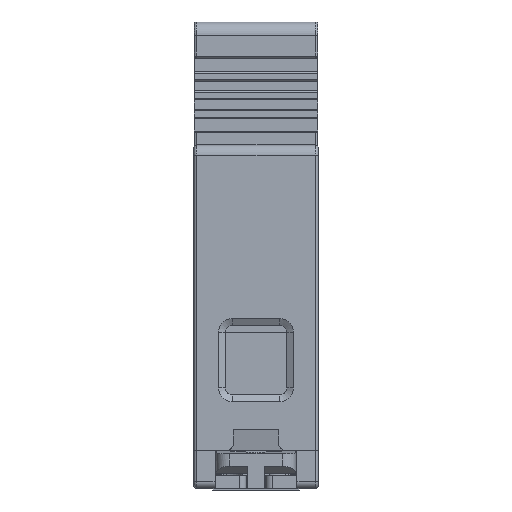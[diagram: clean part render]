
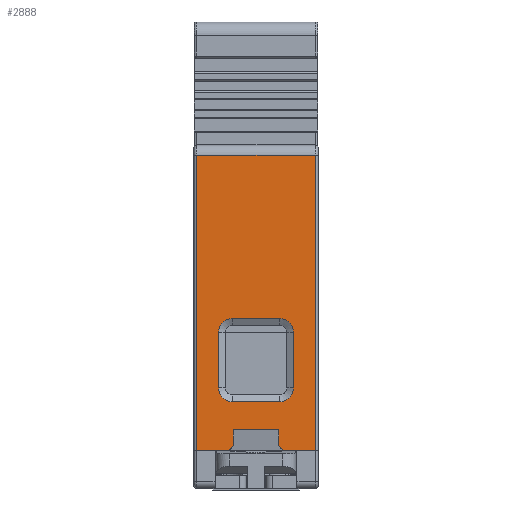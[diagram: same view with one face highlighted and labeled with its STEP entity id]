
A CAD part, left-side view. The second image highlights one B-rep face of the part: STEP entity #2888.
In plain terms, the highlighted planar face has unit normal (-1, 0, 0).
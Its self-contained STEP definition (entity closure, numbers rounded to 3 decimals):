
#1119=FACE_BOUND('',#7097,.T.);
#1566=CIRCLE('',#29980,1.);
#1567=CIRCLE('',#29981,1.);
#1568=CIRCLE('',#29982,2.);
#1569=CIRCLE('',#29983,2.);
#1570=CIRCLE('',#29984,2.);
#1571=CIRCLE('',#29985,2.);
#2888=ADVANCED_FACE('',(#5502,#1119),#4116,.T.);
#4116=PLANE('',#29986);
#5502=FACE_OUTER_BOUND('',#7096,.T.);
#7096=EDGE_LOOP('',(#13394,#13395,#13396,#13397,#13398,#13399,#13400,#13401,
#13402,#13403));
#7097=EDGE_LOOP('',(#13404,#13405,#13406,#13407,#13408,#13409,#13410,#13411));
#13394=ORIENTED_EDGE('',*,*,#21387,.T.);
#13395=ORIENTED_EDGE('',*,*,#21388,.T.);
#13396=ORIENTED_EDGE('',*,*,#21389,.T.);
#13397=ORIENTED_EDGE('',*,*,#21390,.T.);
#13398=ORIENTED_EDGE('',*,*,#21391,.T.);
#13399=ORIENTED_EDGE('',*,*,#21392,.T.);
#13400=ORIENTED_EDGE('',*,*,#21393,.T.);
#13401=ORIENTED_EDGE('',*,*,#21394,.T.);
#13402=ORIENTED_EDGE('',*,*,#21395,.F.);
#13403=ORIENTED_EDGE('',*,*,#21396,.T.);
#13404=ORIENTED_EDGE('',*,*,#21397,.T.);
#13405=ORIENTED_EDGE('',*,*,#21398,.T.);
#13406=ORIENTED_EDGE('',*,*,#21399,.T.);
#13407=ORIENTED_EDGE('',*,*,#21400,.T.);
#13408=ORIENTED_EDGE('',*,*,#21401,.T.);
#13409=ORIENTED_EDGE('',*,*,#21402,.T.);
#13410=ORIENTED_EDGE('',*,*,#21403,.T.);
#13411=ORIENTED_EDGE('',*,*,#21404,.T.);
#17691=VERTEX_POINT('',#47106);
#17692=VERTEX_POINT('',#47107);
#17693=VERTEX_POINT('',#47109);
#17694=VERTEX_POINT('',#47111);
#17695=VERTEX_POINT('',#47113);
#17696=VERTEX_POINT('',#47115);
#17697=VERTEX_POINT('',#47117);
#17698=VERTEX_POINT('',#47119);
#17699=VERTEX_POINT('',#47121);
#17700=VERTEX_POINT('',#47123);
#17701=VERTEX_POINT('',#47126);
#17702=VERTEX_POINT('',#47127);
#17703=VERTEX_POINT('',#47129);
#17704=VERTEX_POINT('',#47131);
#17705=VERTEX_POINT('',#47133);
#17706=VERTEX_POINT('',#47135);
#17707=VERTEX_POINT('',#47137);
#17708=VERTEX_POINT('',#47139);
#21387=EDGE_CURVE('',#17691,#17692,#24781,.T.);
#21388=EDGE_CURVE('',#17692,#17693,#1566,.T.);
#21389=EDGE_CURVE('',#17693,#17694,#24782,.T.);
#21390=EDGE_CURVE('',#17694,#17695,#24783,.T.);
#21391=EDGE_CURVE('',#17695,#17696,#24784,.T.);
#21392=EDGE_CURVE('',#17696,#17697,#24785,.T.);
#21393=EDGE_CURVE('',#17697,#17698,#24786,.T.);
#21394=EDGE_CURVE('',#17698,#17699,#1567,.T.);
#21395=EDGE_CURVE('',#17700,#17699,#24787,.T.);
#21396=EDGE_CURVE('',#17700,#17691,#24788,.T.);
#21397=EDGE_CURVE('',#17701,#17702,#24789,.T.);
#21398=EDGE_CURVE('',#17702,#17703,#1568,.T.);
#21399=EDGE_CURVE('',#17703,#17704,#24790,.T.);
#21400=EDGE_CURVE('',#17704,#17705,#1569,.T.);
#21401=EDGE_CURVE('',#17705,#17706,#24791,.T.);
#21402=EDGE_CURVE('',#17706,#17707,#1570,.T.);
#21403=EDGE_CURVE('',#17707,#17708,#24792,.T.);
#21404=EDGE_CURVE('',#17708,#17701,#1571,.T.);
#24781=LINE('',#47105,#27923);
#24782=LINE('',#47110,#27924);
#24783=LINE('',#47112,#27925);
#24784=LINE('',#47114,#27926);
#24785=LINE('',#47116,#27927);
#24786=LINE('',#47118,#27928);
#24787=LINE('',#47122,#27929);
#24788=LINE('',#47124,#27930);
#24789=LINE('',#47125,#27931);
#24790=LINE('',#47130,#27932);
#24791=LINE('',#47134,#27933);
#24792=LINE('',#47138,#27934);
#27923=VECTOR('',#35951,1.);
#27924=VECTOR('',#35954,1.);
#27925=VECTOR('',#35955,1.);
#27926=VECTOR('',#35956,1.);
#27927=VECTOR('',#35957,1.);
#27928=VECTOR('',#35958,1.);
#27929=VECTOR('',#35961,1.);
#27930=VECTOR('',#35962,1.);
#27931=VECTOR('',#35963,1.);
#27932=VECTOR('',#35966,1.);
#27933=VECTOR('',#35969,1.);
#27934=VECTOR('',#35972,1.);
#29980=AXIS2_PLACEMENT_3D('',#47108,#35952,#35953);
#29981=AXIS2_PLACEMENT_3D('',#47120,#35959,#35960);
#29982=AXIS2_PLACEMENT_3D('',#47128,#35964,#35965);
#29983=AXIS2_PLACEMENT_3D('',#47132,#35967,#35968);
#29984=AXIS2_PLACEMENT_3D('',#47136,#35970,#35971);
#29985=AXIS2_PLACEMENT_3D('',#47140,#35973,#35974);
#29986=AXIS2_PLACEMENT_3D('',#47141,#35975,#35976);
#35951=DIRECTION('',(0.,0.,-1.));
#35952=DIRECTION('',(-1.,0.,0.));
#35953=DIRECTION('',(0.,0.,1.));
#35954=DIRECTION('',(0.,-1.,0.));
#35955=DIRECTION('',(0.,0.,1.));
#35956=DIRECTION('',(0.,1.,0.));
#35957=DIRECTION('',(0.,0.,-1.));
#35958=DIRECTION('',(0.,-1.,0.));
#35959=DIRECTION('',(-1.,0.,0.));
#35960=DIRECTION('',(0.,0.,1.));
#35961=DIRECTION('',(0.,0.,-1.));
#35962=DIRECTION('',(0.,-1.,0.));
#35963=DIRECTION('',(0.,-1.,0.));
#35964=DIRECTION('',(1.,0.,0.));
#35965=DIRECTION('',(0.,0.,1.));
#35966=DIRECTION('',(0.,0.,-1.));
#35967=DIRECTION('',(1.,0.,0.));
#35968=DIRECTION('',(0.,0.,1.));
#35969=DIRECTION('',(0.,1.,0.));
#35970=DIRECTION('',(1.,0.,0.));
#35971=DIRECTION('',(0.,0.,1.));
#35972=DIRECTION('',(0.,0.,1.));
#35973=DIRECTION('',(1.,0.,0.));
#35974=DIRECTION('',(0.,0.,1.));
#35975=DIRECTION('',(-1.,0.,0.));
#35976=DIRECTION('',(0.,0.,1.));
#47105=CARTESIAN_POINT('',(-1.1,4.55,8.7));
#47106=CARTESIAN_POINT('',(-1.1,4.55,8.7));
#47107=CARTESIAN_POINT('',(-1.1,4.55,6.7));
#47108=CARTESIAN_POINT('',(-1.1,3.55,6.7));
#47109=CARTESIAN_POINT('',(-1.1,3.55,5.7));
#47110=CARTESIAN_POINT('',(-1.1,7.8,5.7));
#47111=CARTESIAN_POINT('',(-1.1,-0.75,5.7));
#47112=CARTESIAN_POINT('',(-1.1,-0.75,48.2));
#47113=CARTESIAN_POINT('',(-1.1,-0.75,48.2));
#47114=CARTESIAN_POINT('',(-1.1,7.8,48.2));
#47115=CARTESIAN_POINT('',(-1.1,16.35,48.2));
#47116=CARTESIAN_POINT('',(-1.1,16.35,26.75));
#47117=CARTESIAN_POINT('',(-1.1,16.35,5.7));
#47118=CARTESIAN_POINT('',(-1.1,7.8,5.7));
#47119=CARTESIAN_POINT('',(-1.1,12.05,5.7));
#47120=CARTESIAN_POINT('',(-1.1,12.05,6.7));
#47121=CARTESIAN_POINT('',(-1.1,11.05,6.7));
#47122=CARTESIAN_POINT('',(-1.1,11.05,8.7));
#47123=CARTESIAN_POINT('',(-1.1,11.05,8.7));
#47124=CARTESIAN_POINT('',(-1.1,11.05,8.7));
#47125=CARTESIAN_POINT('',(-1.1,4.4,24.7));
#47126=CARTESIAN_POINT('',(-1.1,11.2,24.7));
#47127=CARTESIAN_POINT('',(-1.1,4.4,24.7));
#47128=CARTESIAN_POINT('',(-1.1,4.4,22.7));
#47129=CARTESIAN_POINT('',(-1.1,2.4,22.7));
#47130=CARTESIAN_POINT('',(-1.1,2.4,14.7));
#47131=CARTESIAN_POINT('',(-1.1,2.4,14.7));
#47132=CARTESIAN_POINT('',(-1.1,4.4,14.7));
#47133=CARTESIAN_POINT('',(-1.1,4.4,12.7));
#47134=CARTESIAN_POINT('',(-1.1,11.2,12.7));
#47135=CARTESIAN_POINT('',(-1.1,11.2,12.7));
#47136=CARTESIAN_POINT('',(-1.1,11.2,14.7));
#47137=CARTESIAN_POINT('',(-1.1,13.2,14.7));
#47138=CARTESIAN_POINT('',(-1.1,13.2,22.7));
#47139=CARTESIAN_POINT('',(-1.1,13.2,22.7));
#47140=CARTESIAN_POINT('',(-1.1,11.2,22.7));
#47141=CARTESIAN_POINT('',(-1.1,34.25,26.75));
